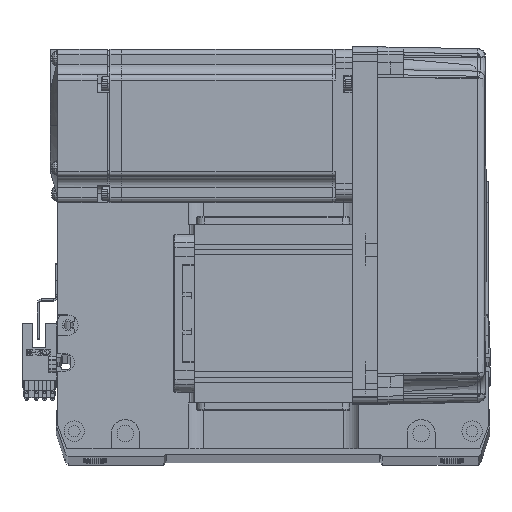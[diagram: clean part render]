
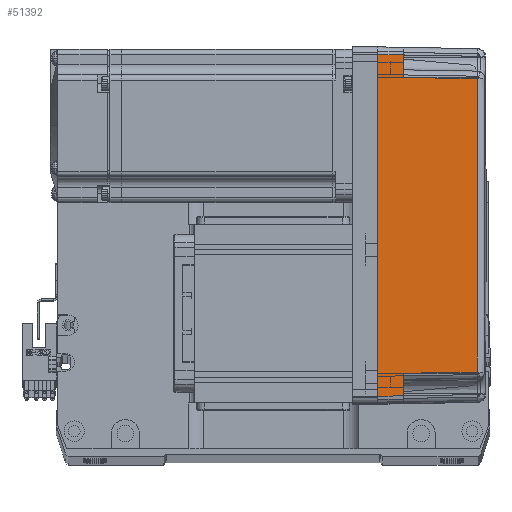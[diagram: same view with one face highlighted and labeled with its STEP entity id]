
A CAD part, top view. The second image highlights one B-rep face of the part: STEP entity #51392.
In plain terms, the highlighted planar face has unit normal (0.018, 0, 1) as drawn and (0, -1, 0.017) by its records, which use the part's own axes.
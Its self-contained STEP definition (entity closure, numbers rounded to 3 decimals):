
#38 = DIRECTION ( 'NONE',  ( -0.017, -0.017, -1. ) ) ;
#287 = ORIENTED_EDGE ( 'NONE', *, *, #45624, .T. ) ;
#360 = VECTOR ( 'NONE', #31659, 1000. ) ;
#606 = ORIENTED_EDGE ( 'NONE', *, *, #38399, .T. ) ;
#1940 = VERTEX_POINT ( 'NONE', #5680 ) ;
#2408 = VECTOR ( 'NONE', #18412, 1000. ) ;
#4245 = LINE ( 'NONE', #4268, #57547 ) ;
#4268 = CARTESIAN_POINT ( 'NONE',  ( 67., -36., 0. ) ) ;
#5680 = CARTESIAN_POINT ( 'NONE',  ( 67., -36., 0. ) ) ;
#5780 = VERTEX_POINT ( 'NONE', #53384 ) ;
#5897 = CARTESIAN_POINT ( 'NONE',  ( 19.165, -35.316, 39.181 ) ) ;
#7438 = DIRECTION ( 'NONE',  ( -1., 0., 0. ) ) ;
#10152 = CARTESIAN_POINT ( 'NONE',  ( 0., -36., 0. ) ) ;
#13004 = CARTESIAN_POINT ( 'NONE',  ( 58., -35.825, 10. ) ) ;
#14539 = EDGE_CURVE ( 'NONE', #42797, #35135, #24258, .T. ) ;
#17472 = CARTESIAN_POINT ( 'NONE',  ( 58., -35.825, 10. ) ) ;
#18412 = DIRECTION ( 'NONE',  ( -0.017, 0.017, 1. ) ) ;
#20013 = EDGE_CURVE ( 'NONE', #1940, #43982, #4245, .T. ) ;
#20439 = LINE ( 'NONE', #10152, #55168 ) ;
#20697 = ORIENTED_EDGE ( 'NONE', *, *, #20013, .T. ) ;
#21068 = CARTESIAN_POINT ( 'NONE',  ( -66.959, -35.958, 2.39 ) ) ;
#21487 = CARTESIAN_POINT ( 'NONE',  ( -57.495, -35.32, 38.985 ) ) ;
#22495 = VERTEX_POINT ( 'NONE', #27381 ) ;
#23360 = B_SPLINE_CURVE_WITH_KNOTS ( 'NONE', 3,
 ( #32530, #5897, #42942, #26480 ),
 .UNSPECIFIED., .F., .F.,
 ( 4, 4 ),
 ( 0., 1. ),
 .UNSPECIFIED. ) ;
#24258 = LINE ( 'NONE', #13004, #2408 ) ;
#26480 = CARTESIAN_POINT ( 'NONE',  ( -57.495, -35.32, 38.985 ) ) ;
#26509 = EDGE_CURVE ( 'NONE', #5780, #22495, #64199, .T. ) ;
#27370 = ORIENTED_EDGE ( 'NONE', *, *, #29175, .T. ) ;
#27381 = CARTESIAN_POINT ( 'NONE',  ( -66.826, -35.825, 10. ) ) ;
#29175 = EDGE_CURVE ( 'NONE', #43982, #42797, #61339, .T. ) ;
#30985 = EDGE_CURVE ( 'NONE', #1940, #5780, #20439, .T. ) ;
#31285 = VECTOR ( 'NONE', #38247, 1000. ) ;
#31659 = DIRECTION ( 'NONE',  ( 0.017, 0.017, 1. ) ) ;
#31667 = CARTESIAN_POINT ( 'NONE',  ( -58., -35.825, 10. ) ) ;
#32530 = CARTESIAN_POINT ( 'NONE',  ( 57.495, -35.32, 38.985 ) ) ;
#32886 = VECTOR ( 'NONE', #38, 1000. ) ;
#33641 = ORIENTED_EDGE ( 'NONE', *, *, #14539, .T. ) ;
#35135 = VERTEX_POINT ( 'NONE', #56619 ) ;
#35840 = PLANE ( 'NONE',  #58648 ) ;
#38247 = DIRECTION ( 'NONE',  ( -1., 0., 0. ) ) ;
#38399 = EDGE_CURVE ( 'NONE', #39966, #59295, #44297, .T. ) ;
#39966 = VERTEX_POINT ( 'NONE', #61813 ) ;
#40180 = DIRECTION ( 'NONE',  ( 0., -1., 0.017 ) ) ;
#40400 = CARTESIAN_POINT ( 'NONE',  ( 70., -36., 0. ) ) ;
#41560 = DIRECTION ( 'NONE',  ( -1., 0., 0. ) ) ;
#42797 = VERTEX_POINT ( 'NONE', #17472 ) ;
#42942 = CARTESIAN_POINT ( 'NONE',  ( -19.165, -35.316, 39.181 ) ) ;
#43982 = VERTEX_POINT ( 'NONE', #58865 ) ;
#44144 = LINE ( 'NONE', #48459, #31285 ) ;
#44297 = LINE ( 'NONE', #21487, #32886 ) ;
#45624 = EDGE_CURVE ( 'NONE', #59295, #22495, #44144, .T. ) ;
#46686 = EDGE_LOOP ( 'NONE', ( #20697, #27370, #33641, #55139, #606, #287, #64008, #47326 ) ) ;
#47326 = ORIENTED_EDGE ( 'NONE', *, *, #30985, .F. ) ;
#48459 = CARTESIAN_POINT ( 'NONE',  ( 70., -35.825, 10. ) ) ;
#50606 = DIRECTION ( 'NONE',  ( 0., -0.017, -1. ) ) ;
#50855 = FACE_OUTER_BOUND ( 'NONE', #46686, .T. ) ;
#51392 = ADVANCED_FACE ( 'NONE', ( #50855 ), #35840, .T. ) ;
#53384 = CARTESIAN_POINT ( 'NONE',  ( -67., -36., 0. ) ) ;
#55139 = ORIENTED_EDGE ( 'NONE', *, *, #64930, .T. ) ;
#55168 = VECTOR ( 'NONE', #41560, 1000. ) ;
#56619 = CARTESIAN_POINT ( 'NONE',  ( 57.495, -35.32, 38.985 ) ) ;
#57547 = VECTOR ( 'NONE', #66207, 1000. ) ;
#58648 = AXIS2_PLACEMENT_3D ( 'NONE', #40400, #40180, #50606 ) ;
#58865 = CARTESIAN_POINT ( 'NONE',  ( 66.826, -35.825, 10. ) ) ;
#59295 = VERTEX_POINT ( 'NONE', #31667 ) ;
#59351 = CARTESIAN_POINT ( 'NONE',  ( 70., -35.825, 10. ) ) ;
#61339 = LINE ( 'NONE', #59351, #61414 ) ;
#61414 = VECTOR ( 'NONE', #7438, 1000. ) ;
#61813 = CARTESIAN_POINT ( 'NONE',  ( -57.495, -35.32, 38.985 ) ) ;
#64008 = ORIENTED_EDGE ( 'NONE', *, *, #26509, .F. ) ;
#64199 = LINE ( 'NONE', #21068, #360 ) ;
#64930 = EDGE_CURVE ( 'NONE', #35135, #39966, #23360, .T. ) ;
#66207 = DIRECTION ( 'NONE',  ( -0.017, 0.017, 1. ) ) ;
